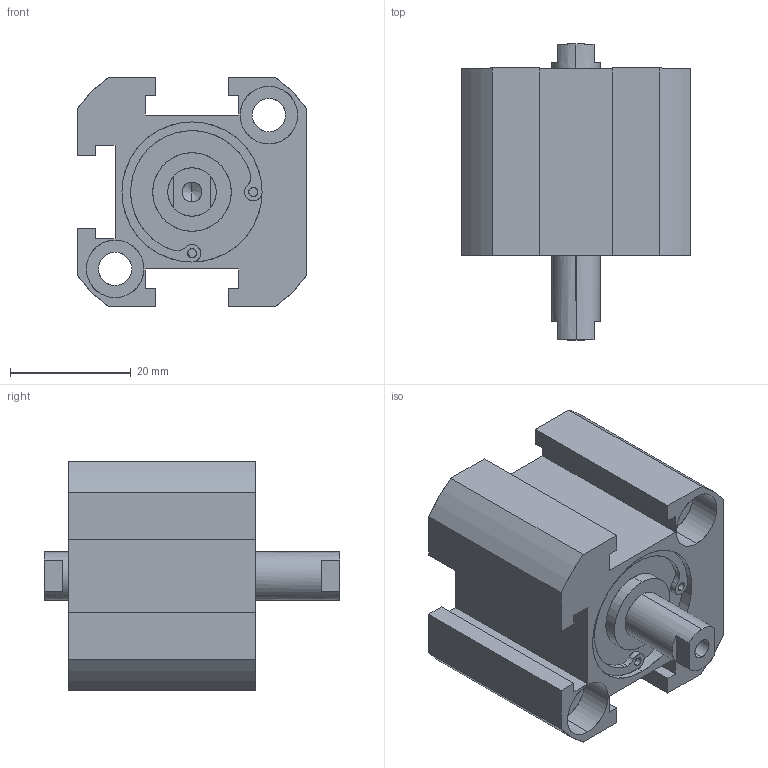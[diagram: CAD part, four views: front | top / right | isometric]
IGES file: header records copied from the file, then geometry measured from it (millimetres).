
Start section: SolidWorks IGES file using analytic representation for surfaces
Global section: file name: C:\Users\Toshiba\Desktop\XC#7-20-10.IGS; native system: SolidWorks 2014; preprocessor: SolidWorks 2014; author: Toshiba; date: 160523.162215; units: millimetre
Bounding box: 38 x 49 x 38 mm (x, y, z)
Surface area: 11108.8 mm2 (no closed solid volume)
Topology: 0 solids, 0 shells, 120 faces, 1800 edges, 1792 vertices
Faces by surface type: revolution 66, bspline 54
